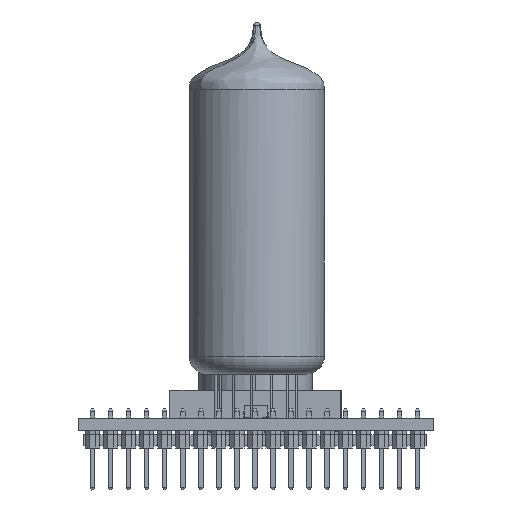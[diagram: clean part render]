
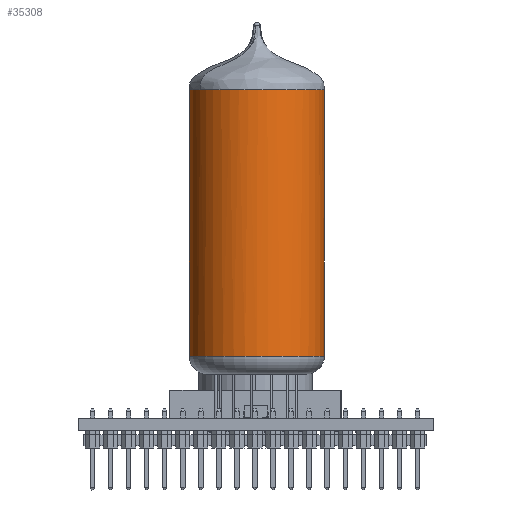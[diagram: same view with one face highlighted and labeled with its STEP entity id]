
A CAD part, left-side view. The second image highlights one B-rep face of the part: STEP entity #35308.
In plain terms, the highlighted cylindrical face has radius 9.5 mm (diameter 19 mm), a partial arc.
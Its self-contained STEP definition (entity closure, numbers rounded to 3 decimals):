
#34493 = EDGE_CURVE('',#34494,#34496,#34498,.T.);
#34494 = VERTEX_POINT('',#34495);
#34495 = CARTESIAN_POINT('',(0.,40.,-9.5));
#34496 = VERTEX_POINT('',#34497);
#34497 = CARTESIAN_POINT('',(-5.191,40.,-7.957));
#34498 = B_SPLINE_CURVE_WITH_KNOTS('',5,(#34499,#34500,#34501,#34502,
    #34503,#34504),.UNSPECIFIED.,.F.,.F.,(6,6),(0.409,0.5),
  .PIECEWISE_BEZIER_KNOTS.);
#34499 = CARTESIAN_POINT('',(0.,40.,-9.5));
#34500 = CARTESIAN_POINT('',(-1.07,40.,-9.501));
#34501 = CARTESIAN_POINT('',(-2.146,40.,-9.352));
#34502 = CARTESIAN_POINT('',(-3.206,40.,-9.048));
#34503 = CARTESIAN_POINT('',(-4.229,40.,-8.584));
#34504 = CARTESIAN_POINT('',(-5.191,40.,-7.957));
#35247 = VERTEX_POINT('',#35248);
#35248 = CARTESIAN_POINT('',(0.,2.5,-9.5));
#35256 = VERTEX_POINT('',#35257);
#35257 = CARTESIAN_POINT('',(0.,2.5,9.5));
#35280 = VERTEX_POINT('',#35281);
#35281 = CARTESIAN_POINT('',(0.,40.,9.5));
#35290 = EDGE_CURVE('',#35280,#35256,#35291,.T.);
#35291 = LINE('',#35292,#35293);
#35292 = CARTESIAN_POINT('',(0.,40.,9.5));
#35293 = VECTOR('',#35294,1.);
#35294 = DIRECTION('',(0.,-1.,0.));
#35297 = EDGE_CURVE('',#34494,#35247,#35298,.T.);
#35298 = LINE('',#35299,#35300);
#35299 = CARTESIAN_POINT('',(0.,40.,-9.5));
#35300 = VECTOR('',#35301,1.);
#35301 = DIRECTION('',(0.,-1.,0.));
#35308 = ADVANCED_FACE('',(#35309),#35336,.T.);
#35309 = FACE_BOUND('',#35310,.T.);
#35310 = EDGE_LOOP('',(#35311,#35312,#35327,#35328,#35329));
#35311 = ORIENTED_EDGE('',*,*,#35290,.F.);
#35312 = ORIENTED_EDGE('',*,*,#35313,.F.);
#35313 = EDGE_CURVE('',#34496,#35280,#35314,.T.);
#35314 = B_SPLINE_CURVE_WITH_KNOTS('',5,(#35315,#35316,#35317,#35318,
    #35319,#35320,#35321,#35322,#35323,#35324,#35325,#35326),
  .UNSPECIFIED.,.F.,.F.,(6,3,3,6),(0.5,0.75,0.781,0.909),
  .UNSPECIFIED.);
#35315 = CARTESIAN_POINT('',(-5.191,40.,-7.957));
#35316 = CARTESIAN_POINT('',(-7.826,40.,-6.238));
#35317 = CARTESIAN_POINT('',(-9.515,40.,-3.611));
#35318 = CARTESIAN_POINT('',(-10.163,40.,-0.529));
#35319 = CARTESIAN_POINT('',(-9.614,40.,2.942));
#35320 = CARTESIAN_POINT('',(-7.508,40.,5.842));
#35321 = CARTESIAN_POINT('',(-7.27,40.,6.134));
#35322 = CARTESIAN_POINT('',(-5.976,40.,7.579));
#35323 = CARTESIAN_POINT('',(-4.385,40.,8.628));
#35324 = CARTESIAN_POINT('',(-2.975,40.,9.203));
#35325 = CARTESIAN_POINT('',(-1.494,40.,9.498));
#35326 = CARTESIAN_POINT('',(0.,40.,9.5));
#35327 = ORIENTED_EDGE('',*,*,#34493,.F.);
#35328 = ORIENTED_EDGE('',*,*,#35297,.T.);
#35329 = ORIENTED_EDGE('',*,*,#35330,.T.);
#35330 = EDGE_CURVE('',#35247,#35256,#35331,.T.);
#35331 = CIRCLE('',#35332,9.5);
#35332 = AXIS2_PLACEMENT_3D('',#35333,#35334,#35335);
#35333 = CARTESIAN_POINT('',(0.,2.5,0.));
#35334 = DIRECTION('',(0.,1.,0.));
#35335 = DIRECTION('',(0.,0.,1.));
#35336 = CYLINDRICAL_SURFACE('',#35337,9.5);
#35337 = AXIS2_PLACEMENT_3D('',#35338,#35339,#35340);
#35338 = CARTESIAN_POINT('',(0.,40.,0.));
#35339 = DIRECTION('',(0.,-1.,0.));
#35340 = DIRECTION('',(0.,0.,-1.));
